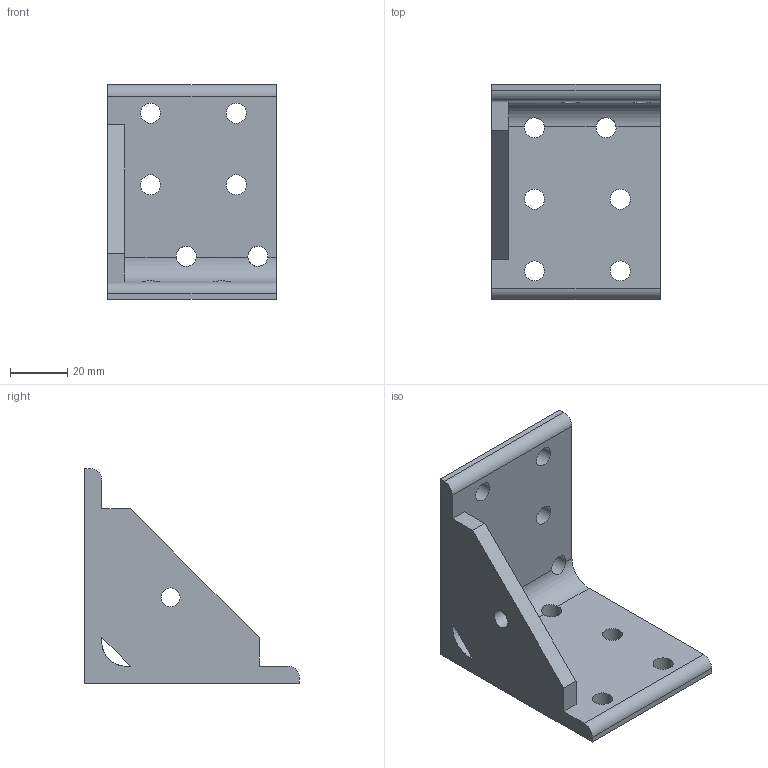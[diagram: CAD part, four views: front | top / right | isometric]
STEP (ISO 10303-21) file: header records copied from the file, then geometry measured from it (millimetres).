
FILE_DESCRIPTION(/* description */ ('Unknown'),/* implementation_level */ '2;1');
FILE_NAME(/* name */ 'TL5975',/* time_stamp */ '2026-09-29T14:16:13+08:00',/* author */ ('Unknown'),/* organization */ ('Unknown'),/* preprocessor_version */ 'ST-DEVELOPER v16.7',/* originating_system */ 'DEX',/* authorisation */ $);
FILE_SCHEMA (('AUTOMOTIVE_DESIGN {1 0 10303 214 3 1 1}'));
Length unit declared in the file: millimetre
Products named in the file (1): TL5975
Bounding box: 59 x 75 x 75 mm (x, y, z)
Volume: 60272.9 mm3; surface area: 23724.8 mm2
Topology: 1 solids, 1 shells, 29 faces, 105 edges, 73 vertices
Faces by surface type: cylinder 16, plane 13
Full cylindrical faces by diameter (mm): 6.647 x1, 7 x12
Entity records: 1260 total; most frequent: CARTESIAN_POINT 193, DIRECTION 167, ORIENTED_EDGE 158, EDGE_CURVE 79, EDGE_LOOP 65, FACE_BOUND 65, AXIS2_PLACEMENT_3D 62, VERTEX_POINT 60
